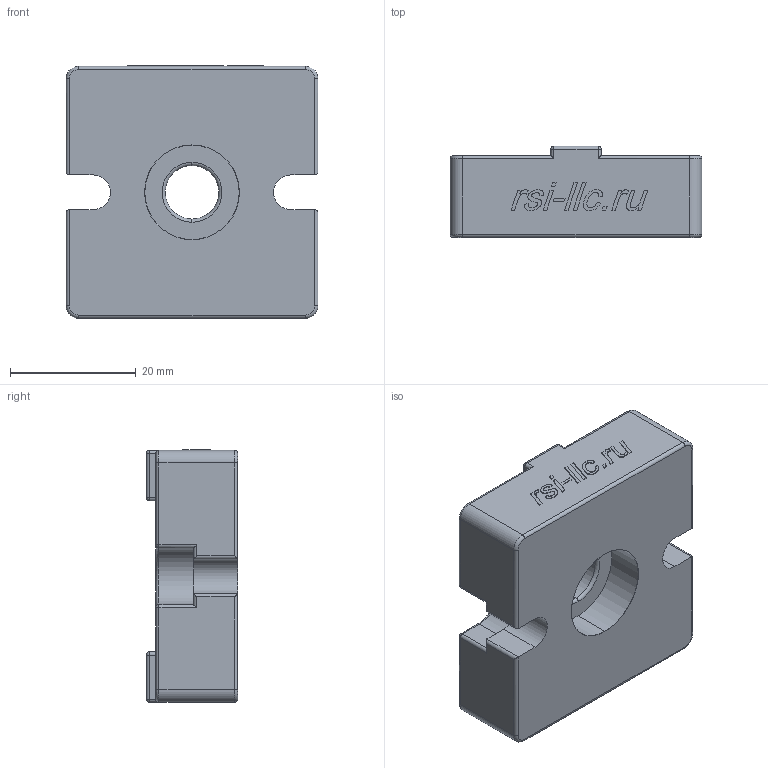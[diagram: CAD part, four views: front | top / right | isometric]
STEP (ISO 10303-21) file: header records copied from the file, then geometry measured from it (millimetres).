
FILE_DESCRIPTION (( 'STEP AP214' ), '1' );
FILE_NAME ('312.0300A.01.STEP', '2021-01-14T06:46:16', ( '' ), ( '' ), 'SwSTEP 2.0', 'SolidWorks 2020', '' );
FILE_SCHEMA (( 'AUTOMOTIVE_DESIGN' ));
Length unit declared in the file: millimetre
Products named in the file (1): 312.0300A.01
Bounding box: 40 x 14.5 x 40.1 mm (x, y, z)
Volume: 18123.6 mm3; surface area: 5826.5 mm2
Topology: 12 solids, 12 shells, 216 faces, 509 edges, 306 vertices
Faces by surface type: plane 100, cylinder 58, bspline 32, torus 12, sphere 12, cone 2
Entity records: 10246 total; most frequent: CARTESIAN_POINT 3052, ORIENTED_EDGE 994, DIRECTION 887, EDGE_CURVE 497, LINE 317, VECTOR 317, VERTEX_POINT 306, AXIS2_PLACEMENT_3D 285
